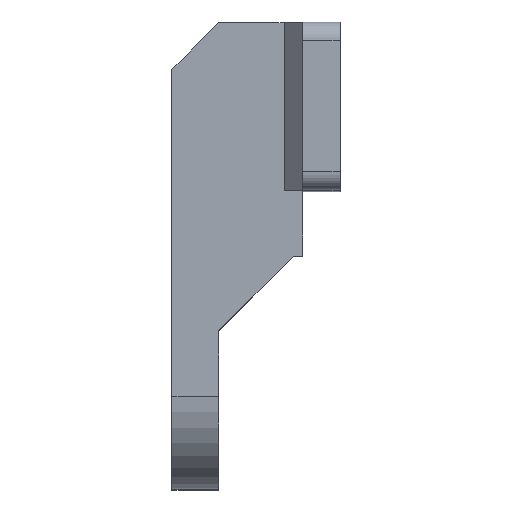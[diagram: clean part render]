
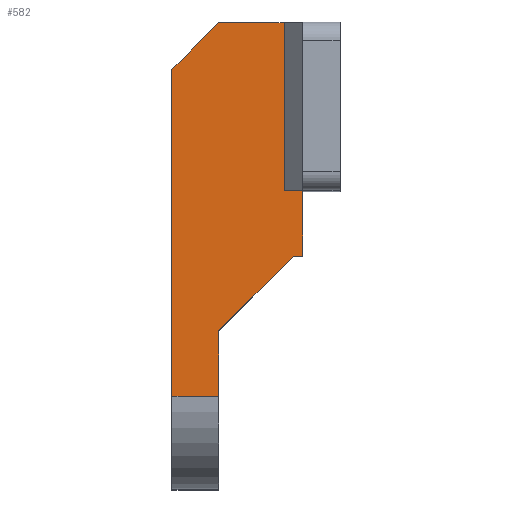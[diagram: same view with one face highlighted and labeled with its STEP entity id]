
A CAD part, top view. The second image highlights one B-rep face of the part: STEP entity #582.
In plain terms, the highlighted planar face has unit normal (0, 0, 1).
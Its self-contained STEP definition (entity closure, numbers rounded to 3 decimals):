
#6 = DIRECTION ( 'NONE',  ( 0., -1., 0. ) ) ;
#86 = EDGE_CURVE ( 'NONE', #163, #121, #841, .T. ) ;
#90 = CARTESIAN_POINT ( 'NONE',  ( -3., -16., 15. ) ) ;
#93 = VECTOR ( 'NONE', #718, 1000. ) ;
#104 = LINE ( 'NONE', #480, #525 ) ;
#110 = CARTESIAN_POINT ( 'NONE',  ( -11., -31., 15. ) ) ;
#121 = VERTEX_POINT ( 'NONE', #417 ) ;
#137 = DIRECTION ( 'NONE',  ( 0.707, 0.707, 0. ) ) ;
#146 = VERTEX_POINT ( 'NONE', #267 ) ;
#152 = DIRECTION ( 'NONE',  ( 1., 0., 0. ) ) ;
#163 = VERTEX_POINT ( 'NONE', #501 ) ;
#182 = DIRECTION ( 'NONE',  ( -1., 0., 0. ) ) ;
#185 = CARTESIAN_POINT ( 'NONE',  ( -11., -24., 15. ) ) ;
#191 = VECTOR ( 'NONE', #350, 1000. ) ;
#204 = EDGE_CURVE ( 'NONE', #720, #146, #945, .T. ) ;
#213 = CARTESIAN_POINT ( 'NONE',  ( -11., -41., 15. ) ) ;
#215 = LINE ( 'NONE', #727, #93 ) ;
#216 = ORIENTED_EDGE ( 'NONE', *, *, #204, .T. ) ;
#226 = CARTESIAN_POINT ( 'NONE',  ( -4., 9., 15. ) ) ;
#229 = ORIENTED_EDGE ( 'NONE', *, *, #250, .F. ) ;
#231 = LINE ( 'NONE', #380, #467 ) ;
#250 = EDGE_CURVE ( 'NONE', #720, #121, #1000, .T. ) ;
#267 = CARTESIAN_POINT ( 'NONE',  ( -11., -31., 15. ) ) ;
#278 = VERTEX_POINT ( 'NONE', #185 ) ;
#289 = ORIENTED_EDGE ( 'NONE', *, *, #774, .T. ) ;
#300 = VERTEX_POINT ( 'NONE', #611 ) ;
#301 = ORIENTED_EDGE ( 'NONE', *, *, #898, .F. ) ;
#307 = ORIENTED_EDGE ( 'NONE', *, *, #522, .F. ) ;
#316 = EDGE_CURVE ( 'NONE', #860, #825, #596, .T. ) ;
#335 = CARTESIAN_POINT ( 'NONE',  ( -2., -16., 15. ) ) ;
#341 = LINE ( 'NONE', #335, #909 ) ;
#350 = DIRECTION ( 'NONE',  ( -1., 0., 0. ) ) ;
#379 = DIRECTION ( 'NONE',  ( 1., 0., 0. ) ) ;
#380 = CARTESIAN_POINT ( 'NONE',  ( -4., -41., 15. ) ) ;
#391 = DIRECTION ( 'NONE',  ( 0., 1., 0. ) ) ;
#397 = PLANE ( 'NONE',  #652 ) ;
#410 = ORIENTED_EDGE ( 'NONE', *, *, #86, .T. ) ;
#417 = CARTESIAN_POINT ( 'NONE',  ( -16., 4., 15. ) ) ;
#437 = EDGE_LOOP ( 'NONE', ( #819, #289, #967, #410, #229, #216, #307, #659, #301, #941 ) ) ;
#438 = EDGE_CURVE ( 'NONE', #300, #860, #215, .T. ) ;
#467 = VECTOR ( 'NONE', #391, 1000. ) ;
#473 = CARTESIAN_POINT ( 'NONE',  ( -2., 9., 15. ) ) ;
#480 = CARTESIAN_POINT ( 'NONE',  ( -11., -24., 15. ) ) ;
#501 = CARTESIAN_POINT ( 'NONE',  ( -11., 9., 15. ) ) ;
#516 = CARTESIAN_POINT ( 'NONE',  ( -2., -9., 15. ) ) ;
#522 = EDGE_CURVE ( 'NONE', #278, #146, #935, .T. ) ;
#525 = VECTOR ( 'NONE', #137, 1000. ) ;
#531 = VECTOR ( 'NONE', #6, 1000. ) ;
#544 = EDGE_CURVE ( 'NONE', #278, #806, #104, .T. ) ;
#580 = CARTESIAN_POINT ( 'NONE',  ( -31.5, -11.5, 15. ) ) ;
#582 = ADVANCED_FACE ( 'NONE', ( #1023 ), #397, .T. ) ;
#586 = DIRECTION ( 'NONE',  ( 1., 0., 0. ) ) ;
#596 = LINE ( 'NONE', #516, #191 ) ;
#611 = CARTESIAN_POINT ( 'NONE',  ( -2., -16., 15. ) ) ;
#652 = AXIS2_PLACEMENT_3D ( 'NONE', #866, #1042, #379 ) ;
#655 = EDGE_CURVE ( 'NONE', #163, #703, #910, .T. ) ;
#659 = ORIENTED_EDGE ( 'NONE', *, *, #544, .T. ) ;
#671 = CARTESIAN_POINT ( 'NONE',  ( -16., -41., 15. ) ) ;
#703 = VERTEX_POINT ( 'NONE', #226 ) ;
#708 = VECTOR ( 'NONE', #152, 1000. ) ;
#718 = DIRECTION ( 'NONE',  ( 0., 1., 0. ) ) ;
#720 = VERTEX_POINT ( 'NONE', #792 ) ;
#725 = DIRECTION ( 'NONE',  ( 0., 1., 0. ) ) ;
#727 = CARTESIAN_POINT ( 'NONE',  ( -2., -41., 15. ) ) ;
#757 = VECTOR ( 'NONE', #725, 1000. ) ;
#774 = EDGE_CURVE ( 'NONE', #825, #703, #231, .T. ) ;
#783 = VECTOR ( 'NONE', #586, 1000. ) ;
#792 = CARTESIAN_POINT ( 'NONE',  ( -16., -31., 15. ) ) ;
#806 = VERTEX_POINT ( 'NONE', #90 ) ;
#816 = DIRECTION ( 'NONE',  ( -0.707, -0.707, 0. ) ) ;
#817 = CARTESIAN_POINT ( 'NONE',  ( -4., -9., 15. ) ) ;
#819 = ORIENTED_EDGE ( 'NONE', *, *, #316, .T. ) ;
#825 = VERTEX_POINT ( 'NONE', #817 ) ;
#841 = LINE ( 'NONE', #580, #1056 ) ;
#842 = CARTESIAN_POINT ( 'NONE',  ( -2., -9., 15. ) ) ;
#860 = VERTEX_POINT ( 'NONE', #842 ) ;
#866 = CARTESIAN_POINT ( 'NONE',  ( -2., -41., 15. ) ) ;
#898 = EDGE_CURVE ( 'NONE', #300, #806, #341, .T. ) ;
#909 = VECTOR ( 'NONE', #182, 1000. ) ;
#910 = LINE ( 'NONE', #473, #708 ) ;
#935 = LINE ( 'NONE', #213, #531 ) ;
#941 = ORIENTED_EDGE ( 'NONE', *, *, #438, .T. ) ;
#945 = LINE ( 'NONE', #110, #783 ) ;
#967 = ORIENTED_EDGE ( 'NONE', *, *, #655, .F. ) ;
#1000 = LINE ( 'NONE', #671, #757 ) ;
#1023 = FACE_OUTER_BOUND ( 'NONE', #437, .T. ) ;
#1042 = DIRECTION ( 'NONE',  ( 0., 0., 1. ) ) ;
#1056 = VECTOR ( 'NONE', #816, 1000. ) ;
